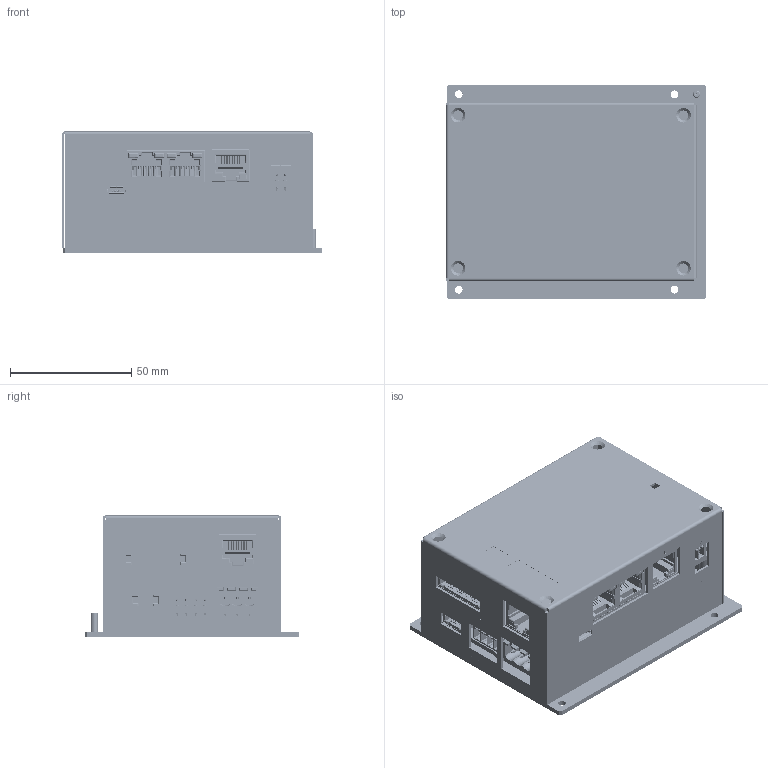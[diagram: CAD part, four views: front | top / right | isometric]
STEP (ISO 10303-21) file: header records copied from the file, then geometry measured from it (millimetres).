
FILE_DESCRIPTION (( 'STEP AP214' ), '1' );
FILE_NAME ('AG300 DRV01.STEP', '2017-12-06T08:28:33', ( '' ), ( '' ), 'SwSTEP 2.0', 'SolidWorks 2016', '' );
FILE_SCHEMA (( 'AUTOMOTIVE_DESIGN' ));
Length unit declared in the file: millimetre
Products named in the file (56): J7; _TFM-105-02-L-DH_pins; FLE-125-01-G-DV-A; mstba_2.5-2-g; Resistor-0603; AG300 DRV01; _TFM-105-02-L-DH_terminal; STEP-7499010211A-rev1; FAB BUTTOM PLATE; J3-J4; J1; AG300_Controller_20160922; MC_1,5_4-G-3,81___1803293_05; J2; Free-Models_2; STANDOFF BSO-M3-10; J3; J10; J9; M-RJHSE-5381-02-REVT1; MSTBA_2,5_8-G___1757527_03; Free-Models; J5; Bottom Plate; _TFM-104-02-L-DH_pins; housing; J8; mstba_2.5-8-g; _TFM-115-02-L-DH_terminal; MSTBA_2,5_3-G___1757488_04; 660330336; J6; MSTBA_2,5_2-G__1757475_04; PCB-AG300 Crtl + Drv Brd 20160922; housing_3; Board_2; housing_2; TFM-115-02-L-DH; 10118194c; mstba_2.5-3-g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
Assembly tree (67 placements, depth 7):
  AG300 DRV01
    PCB-AG300 Crtl + Drv Brd 20160922
      Board
      Free-Models
        MSTBA_2,5_8-G___1757527_03
          mstba_2.5-8-g
        MSTBA_2,5_2-G__1757475_04
          mstba_2.5-2-g
        MSTBA_2,5_3-G___1757488_04
          mstba_2.5-3-g
        MC_1,5_4-G-3,81___1803293_05
        TFM-104-02-L-DH
          _TFM-104-02-L-DH_terminal
          _TFM-104-02-L-DH_pins
        AG300_Controller_20160922
          Board_2
          J3-J4
            M-RJHSE-5381-02-REVT1
          J5
            10118194c
          J14
            FLE-125-01-G-DV-A
              _FLE-125-01-DV-A_socket
              _C-96-01-25-DV
          J2
            STEP-7499010211A-rev1
              housing
              housing_2
              housing_3
              shielding
          J1
            1897092
          J9
            TFM-120-02-L-DH
              _TFM-120-02-L-DH_terminal
              _TFM-120-02-L-DH_pins
          J10
            TFM-115-02-L-DH
              _TFM-115-02-L-DH_terminal
              _TFM-115-02-L-DH_pins
          J8
            TFM-105-02-L-DH
              _TFM-105-02-L-DH_terminal
              _TFM-105-02-L-DH_pins
          J7
            TFM-105-02-L-DH
              _TFM-105-02-L-DH_terminal
              _TFM-105-02-L-DH_pins
          J6
            TFM-105-02-L-DH
              _TFM-105-02-L-DH_terminal
              _TFM-105-02-L-DH_pins
          J3
            STEP-7499010211A-rev1
              housing
              housing_2
              housing_3
              shielding
          Free-Models_2
            Resistor-0603  x4
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Bounding box: 107.27 x 88.6 x 50.12 mm (x, y, z)
Volume: 84464.9 mm3; surface area: 129683.6 mm2
Topology: 57 solids, 60 shells, 12667 faces, 34512 edges, 22554 vertices
Faces by surface type: plane 8787, cylinder 2152, bspline 1657, cone 69, torus 2
Entity records: 458720 total; most frequent: CARTESIAN_POINT 142921, ORIENTED_EDGE 59716, DIRECTION 47043, EDGE_CURVE 29859, VECTOR 22165, LINE 22165, VERTEX_POINT 19557, AXIS2_PLACEMENT_3D 12439
